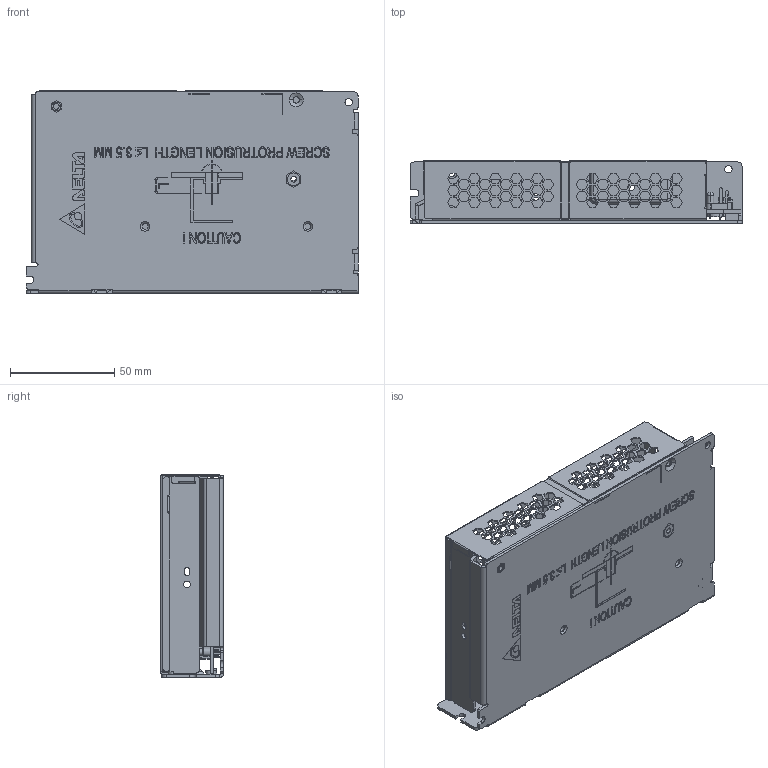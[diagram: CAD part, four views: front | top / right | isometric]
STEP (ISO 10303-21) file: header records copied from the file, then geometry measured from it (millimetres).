
FILE_DESCRIPTION((''),'2;1');
FILE_NAME('PMH-24V150WCLT_ASM','2018-03-13T',('Warud'),(''),'PRO/ENGINEER BY PARAMETRIC TECHNOLOGY CORPORATION, 2010180','PRO/ENGINEER BY PARAMETRIC TECHNOLOGY CORPORATION, 2010180','');
FILE_SCHEMA(('CONFIG_CONTROL_DESIGN','SHAPE_APPEARANCE_LAYERS_GROUPS'));
Products named in the file (14): 330336630102_A_BODY; 330336630102_A_STUD6-32; 330336630102_A_S0-M3-48-ZI; 330336630102_ASM; 330336620000; 3263670900; PWB_MAINBOARD; 3076432931_3P_JST; 3070953631_4P_JST; EE_VR131; EE_LED370; 312330170000_LED-HOLDER; ASSY_PWB-MAINBOARD_ASM; PMH-24V150WCLT_ASM
Assembly tree (13 placements, depth 3):
  PMH-24V150WCLT_ASM
    330336630102_ASM
      330336630102_A_BODY
      330336630102_A_STUD6-32
      330336630102_A_S0-M3-48-ZI
    330336620000
    3263670900
    ASSY_PWB-MAINBOARD_ASM
      PWB_MAINBOARD
      3076432931_3P_JST
      3070953631_4P_JST
      EE_VR131
      EE_LED370
      312330170000_LED-HOLDER
Bounding box: 159 x 30.1 x 97 mm (x, y, z)
Volume: 64198.7 mm3; surface area: 107371.2 mm2
Topology: 11 solids, 11 shells, 4931 faces, 14186 edges, 9150 vertices
Faces by surface type: plane 4012, extrusion 376, cylinder 354, bspline 160, cone 27, torus 2
Entity records: 210032 total; most frequent: CARTESIAN_POINT 35203, ORIENTED_EDGE 28372, DIRECTION 23389, PRESENTATION_STYLE_ASSIGNMENT 14408, EDGE_CURVE 14186, STYLED_ITEM 14137, CURVE_STYLE 14126, VECTOR 13019
